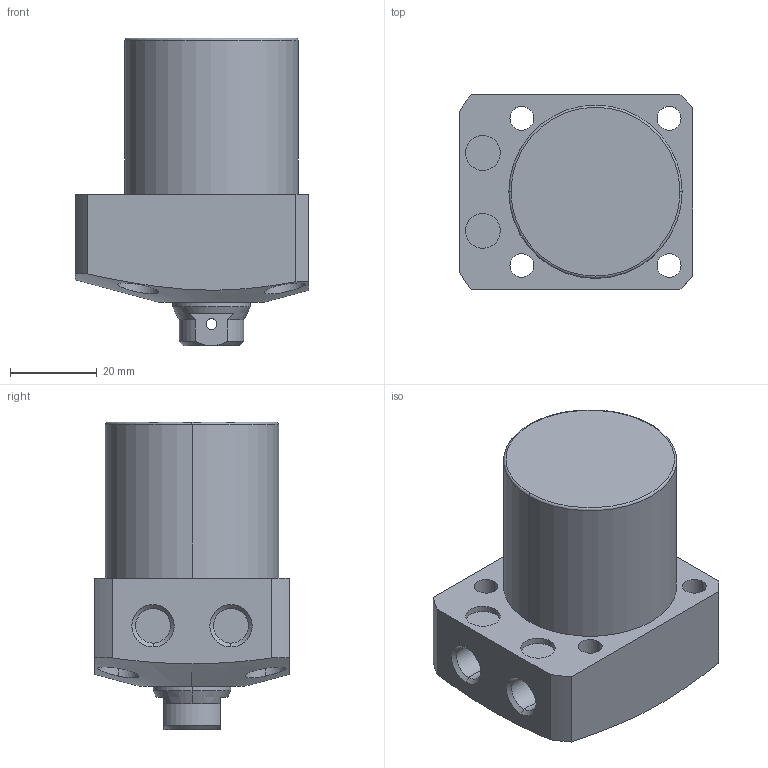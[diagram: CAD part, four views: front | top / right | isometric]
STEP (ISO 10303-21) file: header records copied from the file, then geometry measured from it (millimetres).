
FILE_DESCRIPTION (( 'STEP AP203' ), '1' );
FILE_NAME ('CLL-0400-CB-25.STEP', '2017-05-09T05:45:06', ( '' ), ( '' ), 'SwSTEP 2.0', 'SolidWorks 2015', '' );
FILE_SCHEMA (( 'CONFIG_CONTROL_DESIGN' ));
Length unit declared in the file: millimetre
Products named in the file (1): CLL-0400-CB-25
Bounding box: 54 x 45 x 71 mm (x, y, z)
Volume: 96655 mm3; surface area: 16452.3 mm2
Topology: 1 solids, 1 shells, 78 faces, 182 edges, 115 vertices
Faces by surface type: cylinder 39, plane 22, cone 15, torus 2
Entity records: 2728 total; most frequent: CARTESIAN_POINT 829, DIRECTION 394, ORIENTED_EDGE 360, EDGE_CURVE 180, AXIS2_PLACEMENT_3D 163, VERTEX_POINT 115, EDGE_LOOP 101, CIRCLE 84
